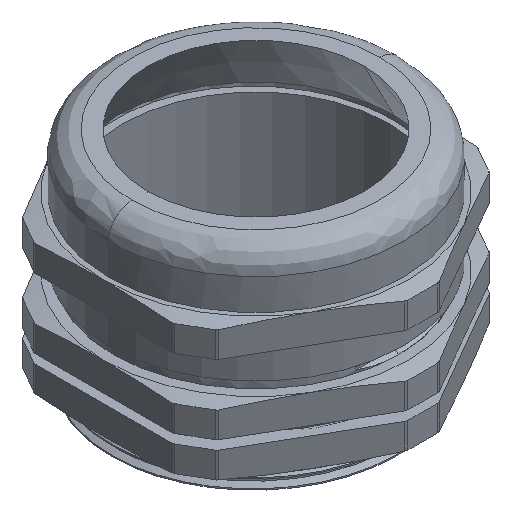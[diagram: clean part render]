
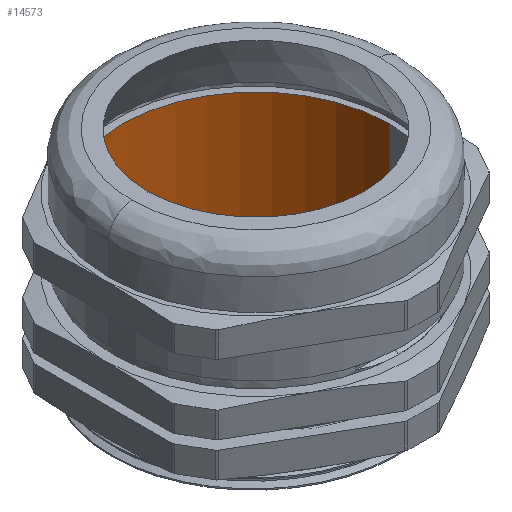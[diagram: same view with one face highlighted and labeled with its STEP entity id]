
A CAD part, isometric view. The second image highlights one B-rep face of the part: STEP entity #14573.
In plain terms, the highlighted cylindrical face has radius 28 mm (diameter 56 mm), a partial arc.
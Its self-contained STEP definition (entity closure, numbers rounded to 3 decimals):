
#176 = VERTEX_POINT ( 'NONE', #13378 ) ;
#221 = VERTEX_POINT ( 'NONE', #14818 ) ;
#1657 = DIRECTION ( 'NONE',  ( 0., 0., -1. ) ) ;
#2157 = CARTESIAN_POINT ( 'NONE',  ( 0., 0., 19. ) ) ;
#2774 = LINE ( 'NONE', #12599, #3965 ) ;
#3570 = VERTEX_POINT ( 'NONE', #10236 ) ;
#3962 = CARTESIAN_POINT ( 'NONE',  ( 28., 0., -13. ) ) ;
#3965 = VECTOR ( 'NONE', #12683, 1000. ) ;
#4552 = DIRECTION ( 'NONE',  ( 1., 0., 0. ) ) ;
#4574 = CYLINDRICAL_SURFACE ( 'NONE', #11063, 28. ) ;
#4659 = DIRECTION ( 'NONE',  ( 0., 0., -1. ) ) ;
#4984 = EDGE_CURVE ( 'NONE', #176, #3570, #2774, .T. ) ;
#5048 = ORIENTED_EDGE ( 'NONE', *, *, #4984, .T. ) ;
#5710 = VECTOR ( 'NONE', #4659, 1000. ) ;
#5712 = ORIENTED_EDGE ( 'NONE', *, *, #7461, .F. ) ;
#6695 = AXIS2_PLACEMENT_3D ( 'NONE', #2157, #15192, #4552 ) ;
#6907 = LINE ( 'NONE', #7219, #5710 ) ;
#7219 = CARTESIAN_POINT ( 'NONE',  ( 28., 0., 6. ) ) ;
#7461 = EDGE_CURVE ( 'NONE', #221, #12561, #6907, .T. ) ;
#9035 = EDGE_LOOP ( 'NONE', ( #5712, #11797, #5048, #13042 ) ) ;
#9521 = DIRECTION ( 'NONE',  ( 0., 0., -1. ) ) ;
#10236 = CARTESIAN_POINT ( 'NONE',  ( -28., 0., -13. ) ) ;
#11063 = AXIS2_PLACEMENT_3D ( 'NONE', #14148, #1657, #14062 ) ;
#11552 = EDGE_CURVE ( 'NONE', #221, #176, #13603, .T. ) ;
#11561 = AXIS2_PLACEMENT_3D ( 'NONE', #14090, #9521, #13053 ) ;
#11797 = ORIENTED_EDGE ( 'NONE', *, *, #11552, .T. ) ;
#12561 = VERTEX_POINT ( 'NONE', #3962 ) ;
#12599 = CARTESIAN_POINT ( 'NONE',  ( -28., 0., 6. ) ) ;
#12683 = DIRECTION ( 'NONE',  ( 0., 0., -1. ) ) ;
#12893 = EDGE_CURVE ( 'NONE', #3570, #12561, #15681, .T. ) ;
#13042 = ORIENTED_EDGE ( 'NONE', *, *, #12893, .T. ) ;
#13053 = DIRECTION ( 'NONE',  ( -1., 0., 0. ) ) ;
#13378 = CARTESIAN_POINT ( 'NONE',  ( -28., 0., 19. ) ) ;
#13603 = CIRCLE ( 'NONE', #6695, 28. ) ;
#14062 = DIRECTION ( 'NONE',  ( -1., 0., 0. ) ) ;
#14090 = CARTESIAN_POINT ( 'NONE',  ( 0., 0., -13. ) ) ;
#14148 = CARTESIAN_POINT ( 'NONE',  ( 0., 0., 6. ) ) ;
#14573 = ADVANCED_FACE ( 'NONE', ( #15541 ), #4574, .F. ) ;
#14818 = CARTESIAN_POINT ( 'NONE',  ( 28., 0., 19. ) ) ;
#15192 = DIRECTION ( 'NONE',  ( 0., 0., 1. ) ) ;
#15541 = FACE_OUTER_BOUND ( 'NONE', #9035, .T. ) ;
#15681 = CIRCLE ( 'NONE', #11561, 28. ) ;
